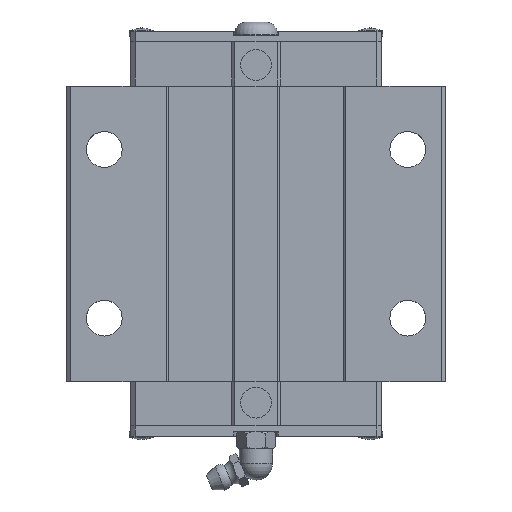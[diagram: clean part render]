
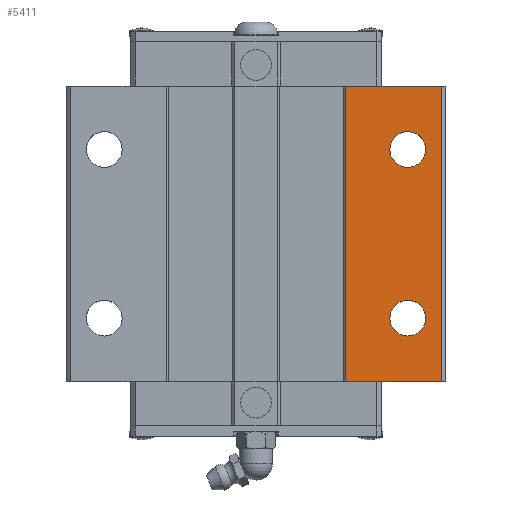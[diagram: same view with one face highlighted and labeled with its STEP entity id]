
A CAD part, top view. The second image highlights one B-rep face of the part: STEP entity #5411.
In plain terms, the highlighted planar face has unit normal (0, 0, 1).
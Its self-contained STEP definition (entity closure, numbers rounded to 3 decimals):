
#2497=EDGE_CURVE('',#5101,#3455,#6520,.T.);
#2613=EDGE_CURVE('',#3251,#4917,#6655,.T.);
#2757=VERTEX_POINT('',#6814);
#3251=VERTEX_POINT('',#7345);
#3313=VERTEX_POINT('',#7411);
#3347=VERTEX_POINT('',#7445);
#3449=VERTEX_POINT('',#7562);
#3455=VERTEX_POINT('',#7569);
#3797=EDGE_CURVE('',#3449,#2757,#7943,.T.);
#4027=EDGE_CURVE('',#3449,#4917,#8194,.T.);
#4917=VERTEX_POINT('',#9178);
#5101=VERTEX_POINT('',#9382);
#5333=EDGE_CURVE('',#3347,#3313,#9636,.T.);
#5377=EDGE_CURVE('',#3455,#5101,#9687,.T.);
#5411=ADVANCED_FACE('',(#9728,#9729,#9730),#9731,.T.);
#5479=EDGE_CURVE('',#2757,#3251,#9805,.T.);
#5895=EDGE_CURVE('',#3313,#3347,#10264,.T.);
#6520=CIRCLE('',#11295,4.25);
#6655=LINE('',#11503,#11504);
#6814=CARTESIAN_POINT('',(21.25,83.15,42.0));
#7345=CARTESIAN_POINT('',(21.25,13.05,42.0));
#7411=CARTESIAN_POINT('',(31.75,68.1,42.0));
#7445=CARTESIAN_POINT('',(40.25,68.1,42.0));
#7562=CARTESIAN_POINT('',(44.0,83.15,42.0));
#7569=CARTESIAN_POINT('',(40.25,28.1,42.0));
#7943=LINE('',#13512,#13513);
#8194=LINE('',#13891,#13892);
#9178=CARTESIAN_POINT('',(44.0,13.05,42.0));
#9382=CARTESIAN_POINT('',(31.75,28.1,42.0));
#9636=CIRCLE('',#16331,4.25);
#9687=CIRCLE('',#16403,4.25);
#9728=FACE_OUTER_BOUND('',#16458,.T.);
#9729=FACE_BOUND('',#16459,.T.);
#9730=FACE_BOUND('',#16460,.T.);
#9731=PLANE('',#16461);
#9805=LINE('',#16567,#16568);
#10264=CIRCLE('',#17428,4.25);
#11295=AXIS2_PLACEMENT_3D('',#18082,#18083,#18084);
#11503=CARTESIAN_POINT('',(44.0,13.05,42.0));
#11504=VECTOR('',#18283,1.0);
#13512=CARTESIAN_POINT('',(44.0,83.15,42.0));
#13513=VECTOR('',#19685,1.0);
#13891=CARTESIAN_POINT('',(44.0,83.15,42.0));
#13892=VECTOR('',#19947,1.0);
#16331=AXIS2_PLACEMENT_3D('',#21586,#21587,#21588);
#16403=AXIS2_PLACEMENT_3D('',#21658,#21659,#21660);
#16458=EDGE_LOOP('',(#21719,#21720,#21721,#21722));
#16459=EDGE_LOOP('',(#21723,#21724));
#16460=EDGE_LOOP('',(#21725,#21726));
#16461=AXIS2_PLACEMENT_3D('',#21727,#21728,#21729);
#16567=CARTESIAN_POINT('',(21.25,100.675,42.0));
#16568=VECTOR('',#21813,1.0);
#17428=AXIS2_PLACEMENT_3D('',#22276,#22277,#22278);
#18082=CARTESIAN_POINT('',(36.0,28.1,42.0));
#18083=DIRECTION('',(0.0,0.0,-1.0));
#18084=DIRECTION('',(1.0,0.0,0.0));
#18283=DIRECTION('',(1.0,0.0,0.0));
#19685=DIRECTION('',(-1.0,0.0,0.0));
#19947=DIRECTION('',(0.0,-1.0,0.0));
#21586=CARTESIAN_POINT('',(36.0,68.1,42.0));
#21587=DIRECTION('',(0.0,0.0,-1.0));
#21588=DIRECTION('',(1.0,0.0,0.0));
#21658=CARTESIAN_POINT('',(36.0,28.1,42.0));
#21659=DIRECTION('',(0.0,0.0,-1.0));
#21660=DIRECTION('',(1.0,0.0,0.0));
#21719=ORIENTED_EDGE('',*,*,#5479,.T.);
#21720=ORIENTED_EDGE('',*,*,#2613,.T.);
#21721=ORIENTED_EDGE('',*,*,#4027,.F.);
#21722=ORIENTED_EDGE('',*,*,#3797,.T.);
#21723=ORIENTED_EDGE('',*,*,#5333,.T.);
#21724=ORIENTED_EDGE('',*,*,#5895,.T.);
#21725=ORIENTED_EDGE('',*,*,#5377,.T.);
#21726=ORIENTED_EDGE('',*,*,#2497,.T.);
#21727=CARTESIAN_POINT('',(-44.0,83.15,42.0));
#21728=DIRECTION('',(0.0,0.0,1.0));
#21729=DIRECTION('',(-1.0,0.0,0.0));
#21813=DIRECTION('',(0.0,-1.0,0.0));
#22276=CARTESIAN_POINT('',(36.0,68.1,42.0));
#22277=DIRECTION('',(0.0,0.0,-1.0));
#22278=DIRECTION('',(1.0,0.0,0.0));
